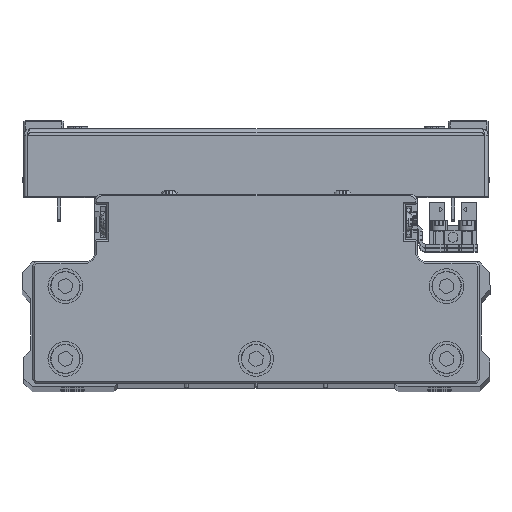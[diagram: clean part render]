
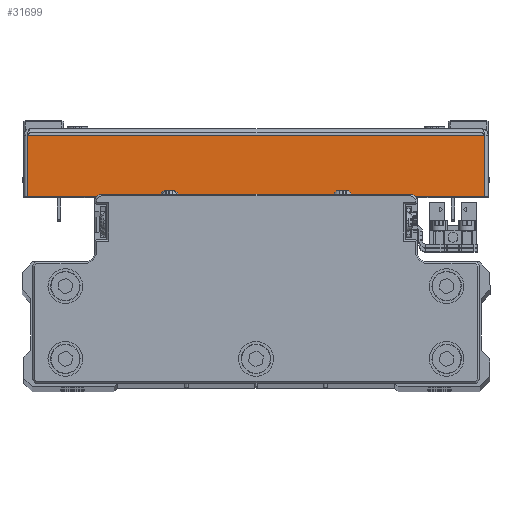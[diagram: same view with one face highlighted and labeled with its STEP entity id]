
A CAD part, top view. The second image highlights one B-rep face of the part: STEP entity #31699.
In plain terms, the highlighted planar face has unit normal (0, 0, 1) as drawn and (1, 0, 0) by its records, which use the part's own axes.
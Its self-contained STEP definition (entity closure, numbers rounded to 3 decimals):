
#935 = VERTEX_POINT ( 'NONE', #15321 ) ;
#1251 = DIRECTION ( 'NONE',  ( 0., 1., 0. ) ) ;
#3457 = DIRECTION ( 'NONE',  ( 0., 0., 1. ) ) ;
#4903 = CARTESIAN_POINT ( 'NONE',  ( 100., 18.5, 0. ) ) ;
#6452 = EDGE_LOOP ( 'NONE', ( #36337, #30297, #17867, #30245 ) ) ;
#11012 = CARTESIAN_POINT ( 'NONE',  ( 100., 1., 65.929 ) ) ;
#12217 = CARTESIAN_POINT ( 'NONE',  ( 100., 0., 0. ) ) ;
#14440 = VECTOR ( 'NONE', #1251, 1000. ) ;
#15321 = CARTESIAN_POINT ( 'NONE',  ( 100., 1., -65.929 ) ) ;
#16544 = LINE ( 'NONE', #30264, #28706 ) ;
#17867 = ORIENTED_EDGE ( 'NONE', *, *, #34512, .T. ) ;
#18351 = LINE ( 'NONE', #32061, #14440 ) ;
#18620 = DIRECTION ( 'NONE',  ( 0., 0., 1. ) ) ;
#19065 = CARTESIAN_POINT ( 'NONE',  ( 100., 18.5, 65.929 ) ) ;
#20549 = LINE ( 'NONE', #34284, #33161 ) ;
#21521 = AXIS2_PLACEMENT_3D ( 'NONE', #12217, #25964, #39678 ) ;
#22131 = EDGE_CURVE ( 'NONE', #935, #32363, #20549, .T. ) ;
#25964 = DIRECTION ( 'NONE',  ( -1., 0., 0. ) ) ;
#27852 = CARTESIAN_POINT ( 'NONE',  ( 100., 18.5, -65.929 ) ) ;
#28706 = VECTOR ( 'NONE', #43999, 1000. ) ;
#29332 = FACE_OUTER_BOUND ( 'NONE', #6452, .T. ) ;
#30245 = ORIENTED_EDGE ( 'NONE', *, *, #31407, .F. ) ;
#30264 = CARTESIAN_POINT ( 'NONE',  ( 100., 0., 65.929 ) ) ;
#30297 = ORIENTED_EDGE ( 'NONE', *, *, #44265, .T. ) ;
#31407 = EDGE_CURVE ( 'NONE', #32363, #43951, #16544, .T. ) ;
#31699 = ADVANCED_FACE ( 'NONE', ( #29332 ), #43039, .F. ) ;
#32061 = CARTESIAN_POINT ( 'NONE',  ( 100., 0., -65.929 ) ) ;
#32363 = VERTEX_POINT ( 'NONE', #11012 ) ;
#33161 = VECTOR ( 'NONE', #3457, 1000. ) ;
#34284 = CARTESIAN_POINT ( 'NONE',  ( 100., 1., 67. ) ) ;
#34512 = EDGE_CURVE ( 'NONE', #37200, #43951, #35734, .T. ) ;
#35734 = LINE ( 'NONE', #4903, #36368 ) ;
#36337 = ORIENTED_EDGE ( 'NONE', *, *, #22131, .F. ) ;
#36368 = VECTOR ( 'NONE', #18620, 1000. ) ;
#37200 = VERTEX_POINT ( 'NONE', #27852 ) ;
#39678 = DIRECTION ( 'NONE',  ( 0., -1., 0. ) ) ;
#43039 = PLANE ( 'NONE',  #21521 ) ;
#43951 = VERTEX_POINT ( 'NONE', #19065 ) ;
#43999 = DIRECTION ( 'NONE',  ( 0., 1., 0. ) ) ;
#44265 = EDGE_CURVE ( 'NONE', #935, #37200, #18351, .T. ) ;
